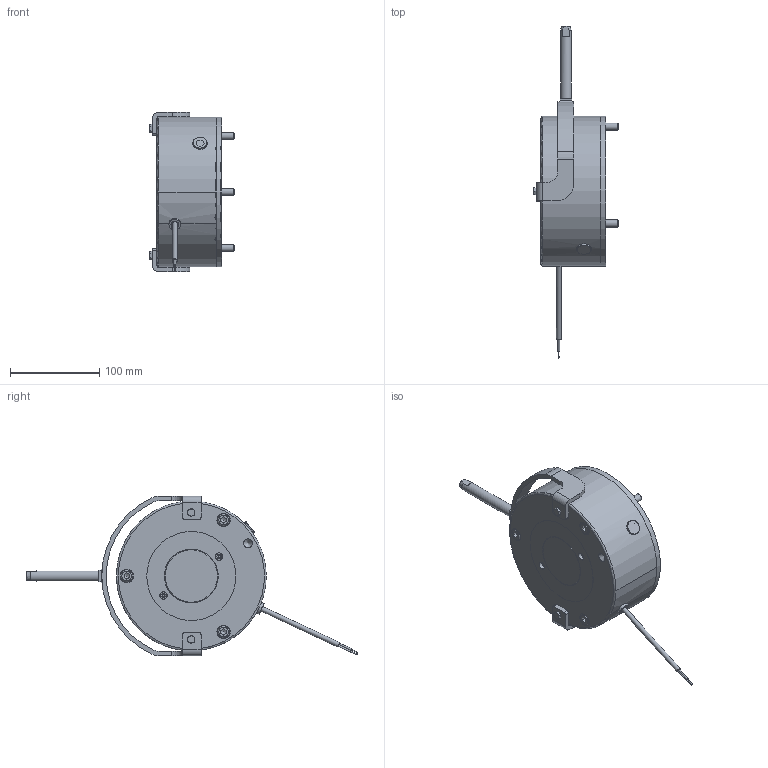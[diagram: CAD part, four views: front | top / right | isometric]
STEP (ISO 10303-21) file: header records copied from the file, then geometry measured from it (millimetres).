
FILE_DESCRIPTION(/* description */ (''),/* implementation_level */ '2;1');
FILE_NAME(/* name */ 'C:\SapWorkDir\Inventor\IP1\ConvertTempPath\5028805_IPT_000.ipt.stp',/* time_stamp */ '2020-09-18T11:40:06+02:00',/* author */ ('STRATE'),/* organization */ (''),/* preprocessor_version */ 'ST-DEVELOPER v17',/* originating_system */ 'Autodesk Inventor 2018',/* authorisation */ '');
FILE_SCHEMA (('AUTOMOTIVE_DESIGN { 1 0 10303 214 3 1 1 }'));
Length unit declared in the file: millimetre
Products named in the file (1): 5028805
Bounding box: 95.6 x 372.51 x 179 mm (x, y, z)
Volume: 1218650.7 mm3; surface area: 219731.8 mm2
Topology: 4 solids, 4 shells, 563 faces, 1563 edges, 1054 vertices
Faces by surface type: cylinder 354, plane 141, cone 43, torus 25
Full cylindrical faces by diameter (mm): 0.01 x1, 1 x2, 1.85 x2, 5 x2, 5.3 x1, 6.4 x2, 6.6 x1, 6.9 x2, 7 x2, 8 x3, 8.376 x2, 9 x3, 9.2 x2, 10 x1, 12 x1, 13 x3, 13.2 x1, 13.9 x3, 15 x3, 16 x1, 52 x1, 59.9 x1, 60 x2, 60.5 x1, 70 x1, 79.5 x2, 100 x1, 124 x1, 159 x1, 165.2 x2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
Entity records: 20004 total; most frequent: CARTESIAN_POINT 4894, ORIENTED_EDGE 3126, DIRECTION 2974, EDGE_CURVE 1563, AXIS2_PLACEMENT_3D 1205, VERTEX_POINT 1054, CIRCLE 641, EDGE_LOOP 633
